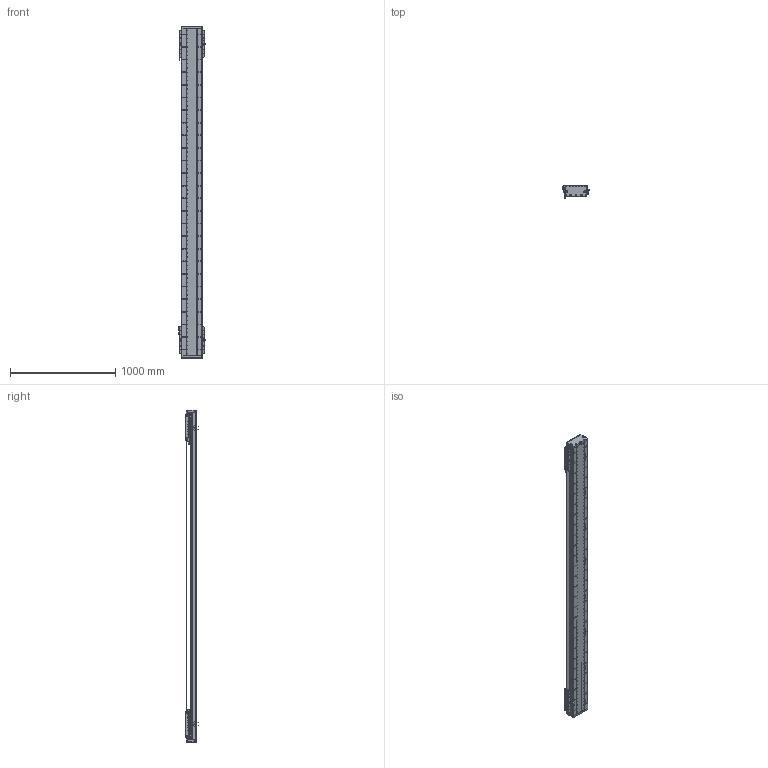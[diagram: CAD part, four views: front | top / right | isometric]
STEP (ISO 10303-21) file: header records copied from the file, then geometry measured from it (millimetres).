
FILE_DESCRIPTION (( 'STEP AP203' ), '1' );
FILE_NAME ('DA-C195-2-C3-T2540-C010-0.2 眻盄萇儂.STEP', '2025-08-15T00:50:42', ( '' ), ( '' ), 'SwSTEP 2.0', 'SolidWorks 2019', '' );
FILE_SCHEMA (( 'CONFIG_CONTROL_DESIGN' ));
Length unit declared in the file: millimetre
Products named in the file (19): DKW-GYP-ZJ-00 笢潔嫖萇覜茼え; DA95-HXJ-00 遣喳砎蝶; DKW-KGZ-ZJ-00 中间光电开关支架; DA-C195-GD-DB-H-00 傷啣; IU-CU195-L-00 菁釱(L3120); DA195詩湍菜輸; MS200 棠掑喜S315-T240; LMT黍杅芛; CU195-C3賑輸-俋楷; DA195詩湍郪璃; PM-Y65嫖萇羲壽郪璃; DA-C195-2-C3-T2540-C010-0.2 眻盄萇儂; DA165-GYP-00 光电感应片(默认); IU-CU195-L 菁釱絳寢; DA195詩湍裔啣; PM-T45ㄗ侂狟ㄘ; 葩璃 DA95-GT-T-00; DA195詩湍嶺輸; DKW168-HXJ-ZJ-00 笢潔滅袉砎蝶
Assembly tree (37 placements, depth 3):
  DA-C195-2-C3-T2540-C010-0.2 眻盄萇儂
    DA195詩湍郪璃
      DA195詩湍菜輸  x2
      DA195詩湍裔啣
      DA195詩湍嶺輸  x2
      DA95-HXJ-00 遣喳砎蝶  x8
      DA-C195-GD-DB-H-00 傷啣  x2
    IU-CU195-L 菁釱絳寢
      IU-CU195-L-00 菁釱(L3120)
      葩璃 DA95-GT-T-00  x4
    LMT黍杅芛  x2
    MS200 棠掑喜S315-T240
    PM-T45ㄗ侂狟ㄘ  x4
    DA165-GYP-00 光电感应片(默认)  x2
    PM-Y65嫖萇羲壽郪璃
    DKW168-HXJ-ZJ-00 笢潔滅袉砎蝶
    DKW-GYP-ZJ-00 笢潔嫖萇覜茼え
    DKW-KGZ-ZJ-00 中间光电开关支架
    CU195-C3賑輸-俋楷  x2
Bounding box: 258.2 x 115.45 x 3160 mm (x, y, z)
Volume: 19742284 mm3; surface area: 5715834.8 mm2
Topology: 154 solids, 218 shells, 7109 faces, 19263 edges, 12037 vertices
Faces by surface type: cylinder 3498, plane 2559, cone 884, torus 88, sphere 72, bspline 8
Entity records: 160991 total; most frequent: CARTESIAN_POINT 44405, ORIENTED_EDGE 24542, DIRECTION 23120, EDGE_CURVE 12271, AXIS2_PLACEMENT_3D 8533, VERTEX_POINT 7962, LINE 6054, VECTOR 6054
